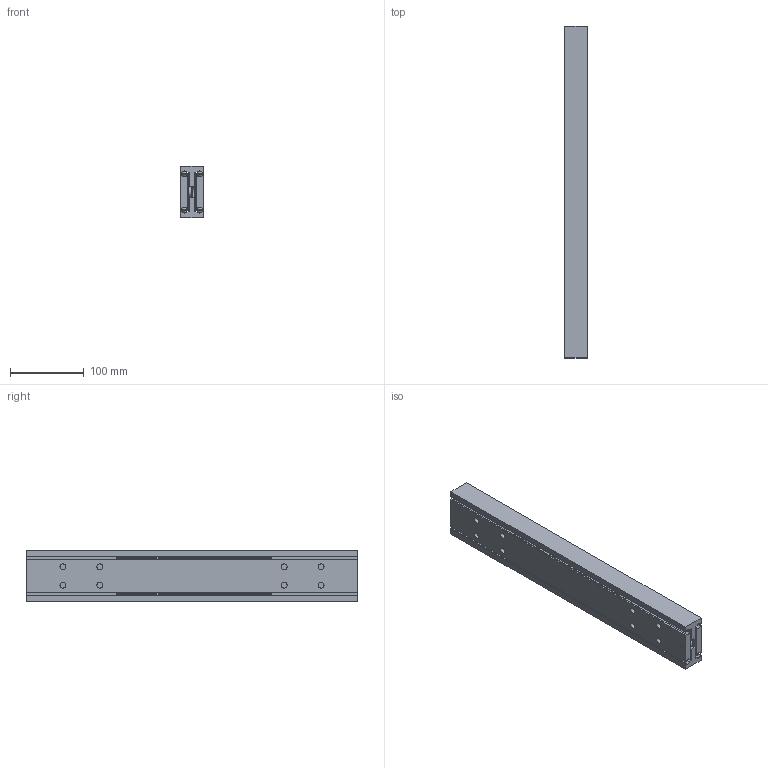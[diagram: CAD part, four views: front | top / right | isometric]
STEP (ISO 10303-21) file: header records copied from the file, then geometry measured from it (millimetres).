
FILE_DESCRIPTION(/* description */ (''),/* implementation_level */ '2;1');
FILE_NAME(/* name */ 'F:\MX-DTP70.045_eingefahren.stp',/* time_stamp */ '2021-01-25T09:01:40+01:00',/* author */ ('Miluxor'),/* organization */ (''),/* preprocessor_version */ 'ST-DEVELOPER v16.13',/* originating_system */ 'AutoCAD Mechanical',/* authorisation */ '');
FILE_SCHEMA (('AUTOMOTIVE_DESIGN { 1 0 10303 214 3 1 1 }'));
Length unit declared in the file: millimetre
Products named in the file (1): Product
Bounding box: 32 x 450 x 70 mm (x, y, z)
Volume: 793329.4 mm3; surface area: 287380.1 mm2
Topology: 47 solids, 47 shells, 306 faces, 784 edges, 520 vertices
Faces by surface type: plane 206, cylinder 58, sphere 28, bspline 8, torus 6
Full cylindrical faces by diameter (mm): 8 x16, 9 x28, 13 x2
Entity records: 15945 total; most frequent: CARTESIAN_POINT 8653, DIRECTION 1410, ORIENTED_EDGE 1348, EDGE_CURVE 674, VERTEX_POINT 518, LINE 500, VECTOR 500, AXIS2_PLACEMENT_3D 455
